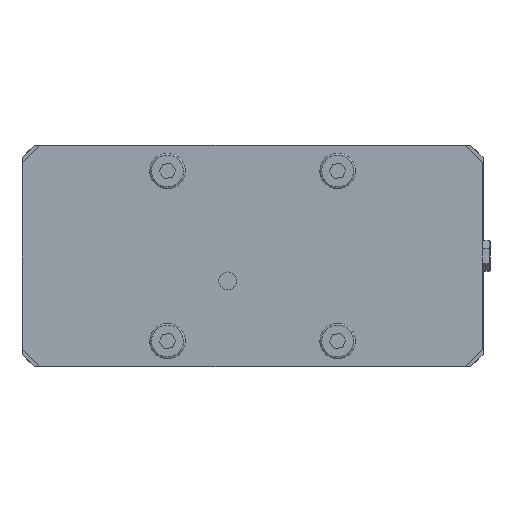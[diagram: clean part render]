
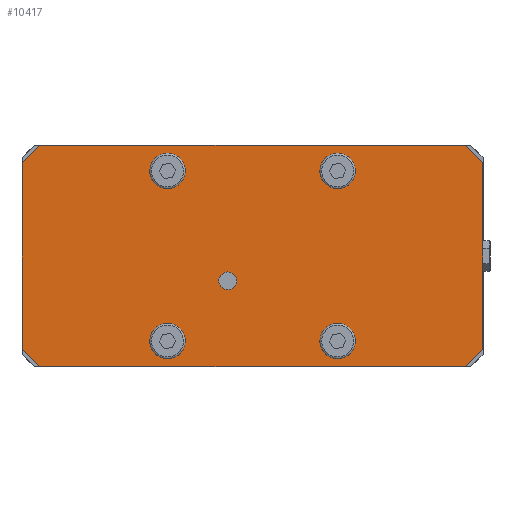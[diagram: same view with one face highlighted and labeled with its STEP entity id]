
A CAD part, front view. The second image highlights one B-rep face of the part: STEP entity #10417.
In plain terms, the highlighted planar face has unit normal (0, -1, 0).
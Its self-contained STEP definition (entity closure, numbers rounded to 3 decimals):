
#1228 = DIRECTION ( 'NONE',  ( 0., 1., 0. ) ) ;
#1515 = ORIENTED_EDGE ( 'NONE', *, *, #27833, .T. ) ;
#2226 = ORIENTED_EDGE ( 'NONE', *, *, #16915, .T. ) ;
#3043 = CARTESIAN_POINT ( 'NONE',  ( 120., 0., 62.5 ) ) ;
#3779 = EDGE_LOOP ( 'NONE', ( #2226 ) ) ;
#3996 = EDGE_CURVE ( 'NONE', #35042, #35042, #4652, .T. ) ;
#4250 = CARTESIAN_POINT ( 'NONE',  ( -130., 0., -52.5 ) ) ;
#4581 = LINE ( 'NONE', #15685, #17193 ) ;
#4640 = VERTEX_POINT ( 'NONE', #7734 ) ;
#4652 = CIRCLE ( 'NONE', #6123, 8.5 ) ;
#5542 = EDGE_CURVE ( 'NONE', #46133, #45100, #18946, .T. ) ;
#5723 = VECTOR ( 'NONE', #25540, 1000. ) ;
#6123 = AXIS2_PLACEMENT_3D ( 'NONE', #19436, #8992, #12537 ) ;
#6268 = LINE ( 'NONE', #20706, #7932 ) ;
#6586 = DIRECTION ( 'NONE',  ( 0., 0., -1. ) ) ;
#6616 = DIRECTION ( 'NONE',  ( 0., 1., 0. ) ) ;
#6774 = VERTEX_POINT ( 'NONE', #35740 ) ;
#6858 = DIRECTION ( 'NONE',  ( 0., 0., -1. ) ) ;
#7108 = DIRECTION ( 'NONE',  ( 0., -1., 0. ) ) ;
#7665 = DIRECTION ( 'NONE',  ( 0., 0., 1. ) ) ;
#7734 = CARTESIAN_POINT ( 'NONE',  ( -48., 0., -39.5 ) ) ;
#7828 = CARTESIAN_POINT ( 'NONE',  ( -120., 0., 62.5 ) ) ;
#7932 = VECTOR ( 'NONE', #10029, 1000. ) ;
#8024 = ORIENTED_EDGE ( 'NONE', *, *, #31087, .F. ) ;
#8683 = VECTOR ( 'NONE', #6586, 1000. ) ;
#8992 = DIRECTION ( 'NONE',  ( 0., 1., 0. ) ) ;
#9410 = LINE ( 'NONE', #30429, #44573 ) ;
#10029 = DIRECTION ( 'NONE',  ( -0.707, 0., 0.707 ) ) ;
#10417 = ADVANCED_FACE ( 'NONE', ( #14413, #32529, #17267, #45972, #17735, #39326 ), #46212, .F. ) ;
#11295 = EDGE_CURVE ( 'NONE', #22511, #46133, #21723, .T. ) ;
#11346 = EDGE_CURVE ( 'NONE', #14120, #14120, #39626, .T. ) ;
#12537 = DIRECTION ( 'NONE',  ( 0., 0., 1. ) ) ;
#12567 = VECTOR ( 'NONE', #29531, 1000. ) ;
#12721 = CARTESIAN_POINT ( 'NONE',  ( 48., 0., -48. ) ) ;
#13379 = ORIENTED_EDGE ( 'NONE', *, *, #32974, .F. ) ;
#13932 = CARTESIAN_POINT ( 'NONE',  ( 130., 0., -62.5 ) ) ;
#14042 = CARTESIAN_POINT ( 'NONE',  ( 130., 0., -52.5 ) ) ;
#14120 = VERTEX_POINT ( 'NONE', #32246 ) ;
#14324 = EDGE_CURVE ( 'NONE', #19445, #22511, #6268, .T. ) ;
#14413 = FACE_BOUND ( 'NONE', #40765, .T. ) ;
#14648 = DIRECTION ( 'NONE',  ( -1., 0., 0. ) ) ;
#14723 = LINE ( 'NONE', #32830, #5723 ) ;
#15685 = CARTESIAN_POINT ( 'NONE',  ( 130., 0., -62.5 ) ) ;
#16915 = EDGE_CURVE ( 'NONE', #6774, #6774, #21923, .T. ) ;
#17065 = AXIS2_PLACEMENT_3D ( 'NONE', #13932, #6616, #46666 ) ;
#17193 = VECTOR ( 'NONE', #29849, 1000. ) ;
#17267 = FACE_BOUND ( 'NONE', #44301, .T. ) ;
#17735 = FACE_BOUND ( 'NONE', #18211, .T. ) ;
#18211 = EDGE_LOOP ( 'NONE', ( #13379 ) ) ;
#18697 = EDGE_LOOP ( 'NONE', ( #28530 ) ) ;
#18946 = LINE ( 'NONE', #7828, #12567 ) ;
#19299 = CIRCLE ( 'NONE', #37284, 8.5 ) ;
#19436 = CARTESIAN_POINT ( 'NONE',  ( 48., 0., 48. ) ) ;
#19445 = VERTEX_POINT ( 'NONE', #27872 ) ;
#19635 = ORIENTED_EDGE ( 'NONE', *, *, #11346, .T. ) ;
#19851 = DIRECTION ( 'NONE',  ( 0., 1., 0. ) ) ;
#20311 = DIRECTION ( 'NONE',  ( 0.707, 0., -0.707 ) ) ;
#20706 = CARTESIAN_POINT ( 'NONE',  ( 130., 0., 52.5 ) ) ;
#20869 = EDGE_CURVE ( 'NONE', #45100, #31459, #45937, .T. ) ;
#21723 = LINE ( 'NONE', #39776, #40404 ) ;
#21923 = CIRCLE ( 'NONE', #42957, 8.5 ) ;
#22511 = VERTEX_POINT ( 'NONE', #3043 ) ;
#23556 = CARTESIAN_POINT ( 'NONE',  ( 48., 0., 56.5 ) ) ;
#24083 = AXIS2_PLACEMENT_3D ( 'NONE', #35132, #7108, #6858 ) ;
#24179 = LINE ( 'NONE', #45393, #44088 ) ;
#24632 = ORIENTED_EDGE ( 'NONE', *, *, #14324, .T. ) ;
#25540 = DIRECTION ( 'NONE',  ( 0.707, 0., 0.707 ) ) ;
#27531 = DIRECTION ( 'NONE',  ( 0., 0., -1. ) ) ;
#27833 = EDGE_CURVE ( 'NONE', #31459, #34178, #9410, .T. ) ;
#27872 = CARTESIAN_POINT ( 'NONE',  ( 130., 0., 52.5 ) ) ;
#28119 = ORIENTED_EDGE ( 'NONE', *, *, #3996, .T. ) ;
#28530 = ORIENTED_EDGE ( 'NONE', *, *, #30451, .T. ) ;
#29155 = DIRECTION ( 'NONE',  ( 0., 1., 0. ) ) ;
#29387 = CARTESIAN_POINT ( 'NONE',  ( -48., 0., -48. ) ) ;
#29406 = VERTEX_POINT ( 'NONE', #14042 ) ;
#29531 = DIRECTION ( 'NONE',  ( -0.707, 0., -0.707 ) ) ;
#29666 = ORIENTED_EDGE ( 'NONE', *, *, #33292, .F. ) ;
#29849 = DIRECTION ( 'NONE',  ( -1., 0., 0. ) ) ;
#30429 = CARTESIAN_POINT ( 'NONE',  ( -120., 0., -62.5 ) ) ;
#30451 = EDGE_CURVE ( 'NONE', #4640, #4640, #19299, .T. ) ;
#30687 = CARTESIAN_POINT ( 'NONE',  ( -130., 0., 52.5 ) ) ;
#30706 = CARTESIAN_POINT ( 'NONE',  ( 120., 0., -62.5 ) ) ;
#31087 = EDGE_CURVE ( 'NONE', #19445, #29406, #24179, .T. ) ;
#31186 = EDGE_CURVE ( 'NONE', #46293, #29406, #14723, .T. ) ;
#31459 = VERTEX_POINT ( 'NONE', #4250 ) ;
#31771 = ORIENTED_EDGE ( 'NONE', *, *, #11295, .T. ) ;
#32246 = CARTESIAN_POINT ( 'NONE',  ( 48., 0., -39.5 ) ) ;
#32358 = CIRCLE ( 'NONE', #24083, 5. ) ;
#32529 = FACE_BOUND ( 'NONE', #18697, .T. ) ;
#32830 = CARTESIAN_POINT ( 'NONE',  ( 130., 0., -52.5 ) ) ;
#32974 = EDGE_CURVE ( 'NONE', #33407, #33407, #32358, .T. ) ;
#33292 = EDGE_CURVE ( 'NONE', #46293, #34178, #4581, .T. ) ;
#33407 = VERTEX_POINT ( 'NONE', #40656 ) ;
#33519 = CARTESIAN_POINT ( 'NONE',  ( -48., 0., 48. ) ) ;
#34178 = VERTEX_POINT ( 'NONE', #40339 ) ;
#35042 = VERTEX_POINT ( 'NONE', #23556 ) ;
#35132 = CARTESIAN_POINT ( 'NONE',  ( -14., 0., -14. ) ) ;
#35740 = CARTESIAN_POINT ( 'NONE',  ( -48., 0., 56.5 ) ) ;
#36343 = DIRECTION ( 'NONE',  ( 0., 0., 1. ) ) ;
#36454 = CARTESIAN_POINT ( 'NONE',  ( -120., 0., 62.5 ) ) ;
#37284 = AXIS2_PLACEMENT_3D ( 'NONE', #29387, #29155, #7665 ) ;
#38962 = EDGE_LOOP ( 'NONE', ( #31771, #39496, #43226, #1515, #29666, #44810, #8024, #24632 ) ) ;
#39326 = FACE_OUTER_BOUND ( 'NONE', #38962, .T. ) ;
#39496 = ORIENTED_EDGE ( 'NONE', *, *, #5542, .T. ) ;
#39626 = CIRCLE ( 'NONE', #45703, 8.5 ) ;
#39776 = CARTESIAN_POINT ( 'NONE',  ( 130., 0., 62.5 ) ) ;
#40339 = CARTESIAN_POINT ( 'NONE',  ( -120., 0., -62.5 ) ) ;
#40404 = VECTOR ( 'NONE', #14648, 1000. ) ;
#40656 = CARTESIAN_POINT ( 'NONE',  ( -14., 0., -19. ) ) ;
#40765 = EDGE_LOOP ( 'NONE', ( #19635 ) ) ;
#42957 = AXIS2_PLACEMENT_3D ( 'NONE', #33519, #1228, #36343 ) ;
#43226 = ORIENTED_EDGE ( 'NONE', *, *, #20869, .T. ) ;
#44088 = VECTOR ( 'NONE', #27531, 1000. ) ;
#44301 = EDGE_LOOP ( 'NONE', ( #28119 ) ) ;
#44490 = DIRECTION ( 'NONE',  ( 0., 0., 1. ) ) ;
#44573 = VECTOR ( 'NONE', #20311, 1000. ) ;
#44810 = ORIENTED_EDGE ( 'NONE', *, *, #31186, .T. ) ;
#45100 = VERTEX_POINT ( 'NONE', #30687 ) ;
#45393 = CARTESIAN_POINT ( 'NONE',  ( 130., 0., -62.5 ) ) ;
#45703 = AXIS2_PLACEMENT_3D ( 'NONE', #12721, #19851, #44490 ) ;
#45722 = CARTESIAN_POINT ( 'NONE',  ( -130., 0., -62.5 ) ) ;
#45937 = LINE ( 'NONE', #45722, #8683 ) ;
#45972 = FACE_BOUND ( 'NONE', #3779, .T. ) ;
#46133 = VERTEX_POINT ( 'NONE', #36454 ) ;
#46212 = PLANE ( 'NONE',  #17065 ) ;
#46293 = VERTEX_POINT ( 'NONE', #30706 ) ;
#46666 = DIRECTION ( 'NONE',  ( 0., 0., 1. ) ) ;
